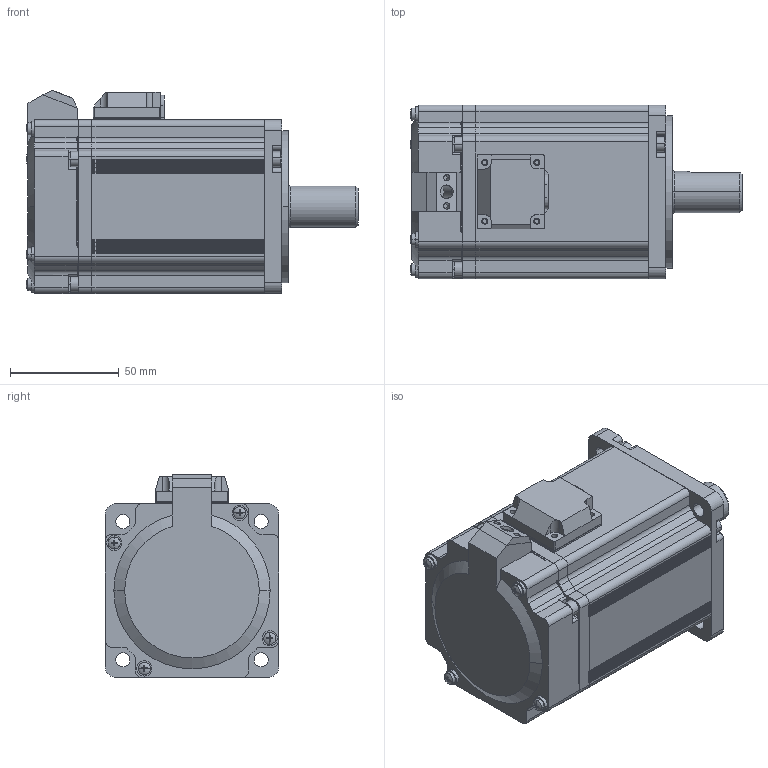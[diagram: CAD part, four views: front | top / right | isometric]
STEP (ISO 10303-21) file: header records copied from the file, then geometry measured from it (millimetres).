
FILE_DESCRIPTION (( 'STEP AP203' ), '1' );
FILE_NAME ('MS6S-80-B1-02430-蚾饜极.STEP', '2021-10-20T08:48:29', ( '' ), ( '' ), 'SwSTEP 2.0', 'SolidWorks 2016', '' );
FILE_SCHEMA (( 'CONFIG_CONTROL_DESIGN' ));
Length unit declared in the file: millimetre
Products named in the file (2): MS6S-80-B1-02430-蚾饜极
Bounding box: 152.89 x 80 x 93.5 mm (x, y, z)
Surface area: 65212.9 mm2 (no closed solid volume)
Topology: 0 solids, 30 shells, 753 faces, 2252 edges, 1530 vertices
Faces by surface type: cylinder 381, plane 240, torus 37, sphere 36, cone 34, bspline 25
Entity records: 26521 total; most frequent: CARTESIAN_POINT 5812, DIRECTION 4786, ORIENTED_EDGE 3645, EDGE_CURVE 2252, AXIS2_PLACEMENT_3D 1890, VERTEX_POINT 1530, CIRCLE 1160, VECTOR 1006
